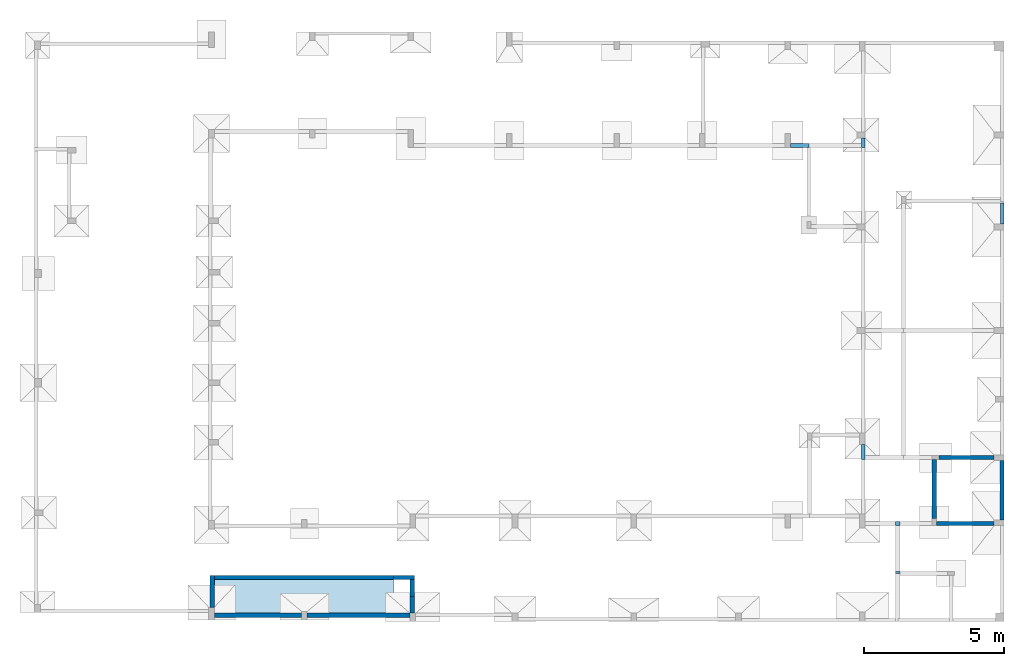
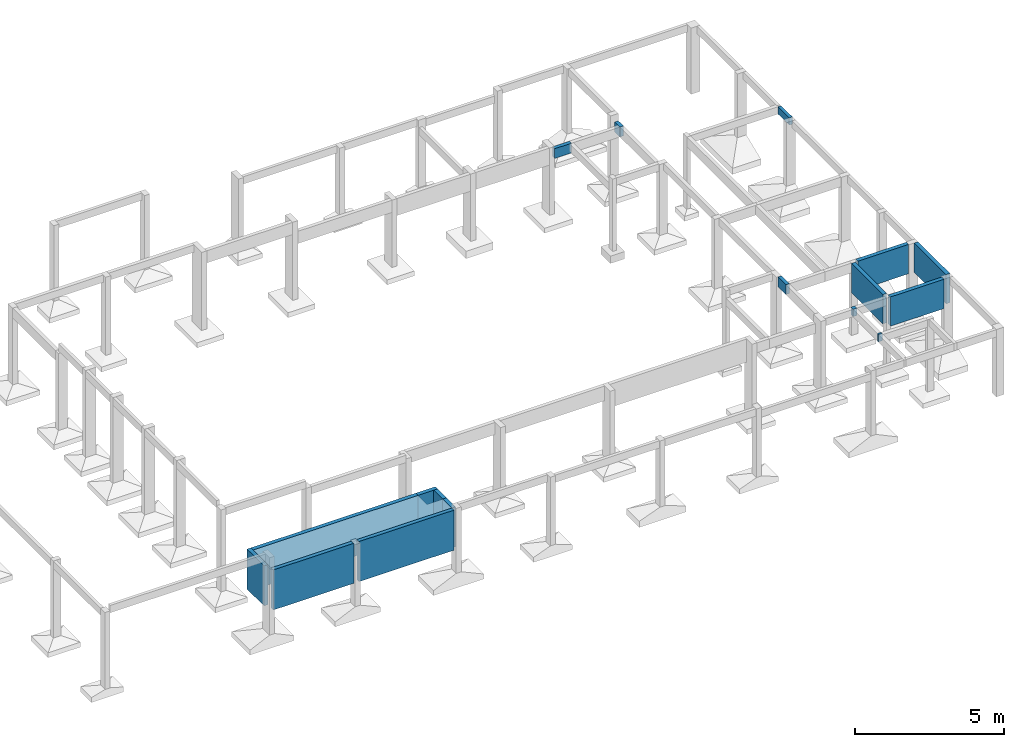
# One storey, part 3 of 5: 11 walls, 6 beams, 1 slab.
"""IFC4 building model written with IfcOpenShell, lengths in centimetres."""

from ifc_helpers import new_model, si_unit, derived_unit, frame, origin_with_axes, origin_2d_with_axis, place, context, project, spatial, polyline, rectangle, outline, extrude, material, element, save


model = new_model("IFC4")

# Units and contexts
model_context = context("Model", 3, precision=1e-05, world=origin_with_axes(), identifier="Body")
ifc_project = project(units=[si_unit("LENGTHUNIT", "METRE", prefix="CENTI"), si_unit("VOLUMEUNIT", "CUBIC_METRE"), si_unit("AREAUNIT", "SQUARE_METRE"), si_unit("POWERUNIT", "WATT"), si_unit("LUMINOUSFLUXUNIT", "LUMEN"), si_unit("ELECTRICCURRENTUNIT", "AMPERE"), si_unit("PRESSUREUNIT", "PASCAL", prefix="KILO"), si_unit("MASSUNIT", "GRAM", prefix="KILO"), si_unit("PLANEANGLEUNIT", "RADIAN"), derived_unit("VOLUMETRICFLOWRATEUNIT", [(si_unit("LENGTHUNIT", "METRE"), 3), (si_unit("TIMEUNIT", "SECOND"), -1)])], contexts=[model_context])

# Site, building, storey
site_placement = place(None, origin_with_axes())
site = spatial("IfcSite", under=ifc_project, at=site_placement)
building_placement = place(site_placement, frame((0.0, 0.0, -295.0)))
building = spatial("IfcBuilding", under=site, at=building_placement)
placement_1 = place(building_placement, origin_with_axes())
placement_2 = place(placement_1, frame((0.0, 0.0, 101.0), z_axis=(0.0, 0.0, 1.0), x_axis=(1.0, 0.0, 0.0)))
storey_placement = place(placement_2, frame((0.0, 0.0, 204.0), z_axis=(0.0, 0.0, 1.0), x_axis=(1.0, 0.0, 0.0)))
storey = spatial("IfcBuildingStorey", under=building, at=storey_placement, Name="TÉRREO", CompositionType="ELEMENT", Elevation=10.0)

# Beams
ifc_material = material(Name="Concreto")
beam_1_placement = place(storey_placement, frame((3286.315, -5477.62, -54.0), z_axis=(0.0, 0.0, 1.0), x_axis=(1.0, 0.0, 0.0)))
element("IfcBeam", 1, at=beam_1_placement, inside=storey, material=ifc_material, Name="VB11", context=model_context, shape_type="SolidModel", body=[
    extrude(rectangle(XDim=14.0, YDim=40.0, at=origin_2d_with_axis()), frame((-32.585, 0.0, -20.0), z_axis=(1.0, 0.0, 0.0), x_axis=(0.0, -1.0, 0.0)), (0.0, 0.0, 1.0), 65.17),
])
beam_2_placement = place(storey_placement, frame((3513.71, -6572.43, -24.0), z_axis=(0.0, 0.0, 1.0), x_axis=(1.0, 0.0, 0.0)))
element("IfcBeam", 2, at=beam_2_placement, inside=storey, material=ifc_material, Name="VB38", context=model_context, shape_type="SolidModel", body=[
    extrude(rectangle(XDim=14.0, YDim=40.0, at=origin_2d_with_axis()), frame((0.0, -26.88, -20.0), z_axis=(0.0, 1.0, 0.0), x_axis=(1.0, 0.0, 0.0)), (0.0, 0.0, 1.0), 53.76),
])
beam_3_placement = place(storey_placement, frame((3513.71, -5467.155, -54.0), z_axis=(0.0, 0.0, 1.0), x_axis=(1.0, 0.0, 0.0)))
element("IfcBeam", 3, at=beam_3_placement, inside=storey, material=ifc_material, Name="VB40", context=model_context, shape_type="SolidModel", body=[
    extrude(rectangle(XDim=14.0, YDim=40.0, at=origin_2d_with_axis()), frame((0.0, -17.465, -20.0), z_axis=(0.0, 1.0, 0.0), x_axis=(1.0, 0.0, 0.0)), (0.0, 0.0, 1.0), 34.93),
])
beam_4_placement = place(storey_placement, frame((3637.25, -6828.79, -24.0), z_axis=(0.0, 0.0, 1.0), x_axis=(1.0, 0.0, 0.0)))
element("IfcBeam", 4, at=beam_4_placement, inside=storey, material=ifc_material, Name="VB42", context=model_context, shape_type="SolidModel", body=[
    extrude(rectangle(XDim=15.0, YDim=30.0, at=origin_2d_with_axis()), frame((0.0, -7.5, -15.0), z_axis=(0.0, 1.0, 0.0), x_axis=(1.0, 0.0, 0.0)), (0.0, 0.0, 1.0), 15.0),
])
beam_5_placement = place(storey_placement, frame((3637.25, -7003.06, -24.0), z_axis=(0.0, 0.0, 1.0), x_axis=(1.0, 0.0, 0.0)))
element("IfcBeam", 5, at=beam_5_placement, inside=storey, material=ifc_material, Name="VB42", context=model_context, shape_type="SolidModel", body=[
    extrude(rectangle(XDim=15.0, YDim=30.0, at=origin_2d_with_axis()), frame((0.0, -3.75, -15.0), z_axis=(0.0, 1.0, 0.0), x_axis=(1.0, 0.0, 0.0)), (0.0, 0.0, 1.0), 7.5),
])
beam_6_placement = place(storey_placement, frame((4010.75, -5721.05, -24.0), z_axis=(0.0, 0.0, 1.0), x_axis=(1.0, 0.0, 0.0)))
element("IfcBeam", 6, at=beam_6_placement, inside=storey, material=ifc_material, Name="VB46", context=model_context, shape_type="SolidModel", body=[
    extrude(rectangle(XDim=12.0, YDim=30.0, at=origin_2d_with_axis()), frame((0.0, -37.5, -15.0), z_axis=(0.0, 1.0, 0.0), x_axis=(1.0, 0.0, 0.0)), (0.0, 0.0, 1.0), 75.0),
])

# Slab
slab_placement = place(storey_placement, frame((1543.7495, -7089.2255, -40.0), z_axis=(0.0, 0.0, 1.0), x_axis=(1.0, 0.0, 0.0)))
element("IfcSlab", 7, at=slab_placement, inside=storey, material=ifc_material, Name="L1", PredefinedType="FLOOR", context=model_context, shape_type="SolidModel", body=[
    extrude(outline(polyline([(349.849, 0.085), (289.849, 0.085), (289.849, 60.084), (-349.85, 60.084), (-349.849, -60.084), (-37.789, -60.084), (-37.789, -53.705), (-17.789, -53.705), (-17.789, -60.084), (349.849, -60.085), (349.849, 0.085), (349.849, 0.085)])), frame((0.0005, 0.0005, -10.0), z_axis=(0.0, 0.0, 1.0), x_axis=(1.0, 0.0, 0.0)), (0.0, 0.0, 1.0), 10.0),
])

# Walls
wall_1_placement = place(storey_placement, frame((1349.93, -7156.81, -40.0), z_axis=(0.0, 0.0, 1.0), x_axis=(1.0, 0.0, 0.0)))
element("IfcWall", 8, at=wall_1_placement, inside=storey, material=ifc_material, Name="PAR1-A", PredefinedType="SHEAR", context=model_context, shape_type="SolidModel", body=[
    extrude(rectangle(XDim=15.0, YDim=164.0, at=origin_2d_with_axis()), frame((-156.03, 0.0, -82.0), z_axis=(1.0, 0.0, 0.0), x_axis=(0.0, -1.0, 0.0)), (0.0, 0.0, 1.0), 312.06),
])
wall_2_placement = place(storey_placement, frame((1709.78, -7156.81, -40.0), z_axis=(0.0, 0.0, 1.0), x_axis=(1.0, 0.0, 0.0)))
element("IfcWall", 9, at=wall_2_placement, inside=storey, material=ifc_material, Name="PAR1-B", PredefinedType="SHEAR", context=model_context, shape_type="SolidModel", body=[
    extrude(rectangle(XDim=15.0, YDim=164.0, at=origin_2d_with_axis()), frame((-183.82, 0.0, -82.0), z_axis=(1.0, 0.0, 0.0), x_axis=(0.0, -1.0, 0.0)), (0.0, 0.0, 1.0), 367.64),
])
wall_3_placement = place(storey_placement, frame((1901.1, -7119.225, -40.0), z_axis=(0.0, 0.0, 1.0), x_axis=(1.0, 0.0, 0.0)))
element("IfcWall", 10, at=wall_3_placement, inside=storey, material=ifc_material, Name="PAR2-A", PredefinedType="SHEAR", context=model_context, shape_type="SolidModel", body=[
    extrude(rectangle(XDim=15.0, YDim=164.0, at=origin_2d_with_axis()), frame((0.0, -30.085, -82.0), z_axis=(0.0, 1.0, 0.0), x_axis=(1.0, 0.0, 0.0)), (0.0, 0.0, 1.0), 60.17),
])
wall_4_placement = place(storey_placement, frame((1901.1, -7059.14, -40.0), z_axis=(0.0, 0.0, 1.0), x_axis=(1.0, 0.0, 0.0)))
element("IfcWall", 11, at=wall_4_placement, inside=storey, material=ifc_material, Name="PAR2-B", PredefinedType="SHEAR", context=model_context, shape_type="SolidModel", body=[
    extrude(rectangle(XDim=15.0, YDim=164.0, at=origin_2d_with_axis()), frame((0.0, -30.0, -82.0), z_axis=(0.0, 1.0, 0.0), x_axis=(1.0, 0.0, 0.0)), (0.0, 0.0, 1.0), 60.0),
])
wall_5_placement = place(storey_placement, frame((1871.1, -7021.64, -40.0), z_axis=(0.0, 0.0, 1.0), x_axis=(1.0, 0.0, 0.0)))
element("IfcWall", 12, at=wall_5_placement, inside=storey, material=ifc_material, Name="PAR3-A", PredefinedType="SHEAR", context=model_context, shape_type="SolidModel", body=[
    extrude(rectangle(XDim=15.0, YDim=164.0, at=origin_2d_with_axis()), frame((37.5, 0.0, -82.0), z_axis=(-1.0, 0.0, 0.0), x_axis=(0.0, -1.0, 0.0)), (0.0, 0.0, 1.0), 75.0),
])
wall_6_placement = place(storey_placement, frame((1513.75, -7021.64, -40.0), z_axis=(0.0, 0.0, 1.0), x_axis=(1.0, 0.0, 0.0)))
element("IfcWall", 13, at=wall_6_placement, inside=storey, material=ifc_material, Name="PAR3-B", PredefinedType="SHEAR", context=model_context, shape_type="SolidModel", body=[
    extrude(rectangle(XDim=15.0, YDim=164.0, at=origin_2d_with_axis()), frame((319.85, 0.0, -82.0), z_axis=(-1.0, 0.0, 0.0), x_axis=(0.0, -1.0, 0.0)), (0.0, 0.0, 1.0), 639.7),
])
wall_7_placement = place(storey_placement, frame((1186.4, -7071.035, -40.0), z_axis=(0.0, 0.0, 1.0), x_axis=(1.0, 0.0, 0.0)))
element("IfcWall", 14, at=wall_7_placement, inside=storey, material=ifc_material, Name="PAR4", PredefinedType="SHEAR", context=model_context, shape_type="SolidModel", body=[
    extrude(rectangle(XDim=15.0, YDim=164.0, at=origin_2d_with_axis()), frame((0.0, 56.895, -82.0), z_axis=(0.0, -1.0, 0.0), x_axis=(1.0, 0.0, 0.0)), (0.0, 0.0, 1.0), 113.79),
])
wall_8_placement = place(storey_placement, frame((3878.24, -6828.79, -24.0), z_axis=(0.0, 0.0, 1.0), x_axis=(1.0, 0.0, 0.0)))
element("IfcWall", 15, at=wall_8_placement, inside=storey, material=ifc_material, Name="PAR5", PredefinedType="SHEAR", context=model_context, shape_type="SolidModel", body=[
    extrude(rectangle(XDim=15.0, YDim=120.0, at=origin_2d_with_axis()), frame((-103.51, 0.0, -60.0), z_axis=(1.0, 0.0, 0.0), x_axis=(0.0, -1.0, 0.0)), (0.0, 0.0, 1.0), 207.02),
])
wall_9_placement = place(storey_placement, frame((4009.25, -6709.55, -24.0), z_axis=(0.0, 0.0, 1.0), x_axis=(1.0, 0.0, 0.0)))
element("IfcWall", 16, at=wall_9_placement, inside=storey, material=ifc_material, Name="PAR6", PredefinedType="SHEAR", context=model_context, shape_type="SolidModel", body=[
    extrude(rectangle(XDim=15.0, YDim=120.0, at=origin_2d_with_axis()), frame((0.0, -106.74, -60.0), z_axis=(0.0, 1.0, 0.0), x_axis=(1.0, 0.0, 0.0)), (0.0, 0.0, 1.0), 213.48),
])
wall_10_placement = place(storey_placement, frame((3883.23, -6592.81, -24.0), z_axis=(0.0, 0.0, 1.0), x_axis=(1.0, 0.0, 0.0)))
element("IfcWall", 17, at=wall_10_placement, inside=storey, material=ifc_material, Name="PAR7", PredefinedType="SHEAR", context=model_context, shape_type="SolidModel", body=[
    extrude(rectangle(XDim=15.0, YDim=120.0, at=origin_2d_with_axis()), frame((98.5, 0.0, -60.0), z_axis=(-1.0, 0.0, 0.0), x_axis=(0.0, -1.0, 0.0)), (0.0, 0.0, 1.0), 197.0),
])
wall_11_placement = place(storey_placement, frame((3767.23, -6705.8, -24.0), z_axis=(0.0, 0.0, 1.0), x_axis=(1.0, 0.0, 0.0)))
element("IfcWall", 18, at=wall_11_placement, inside=storey, material=ifc_material, Name="PAR8", PredefinedType="SHEAR", context=model_context, shape_type="SolidModel", body=[
    extrude(rectangle(XDim=15.0, YDim=120.0, at=origin_2d_with_axis()), frame((0.0, 105.49, -60.0), z_axis=(0.0, -1.0, 0.0), x_axis=(1.0, 0.0, 0.0)), (0.0, 0.0, 1.0), 210.98),
])

save(model, "model.ifc")
